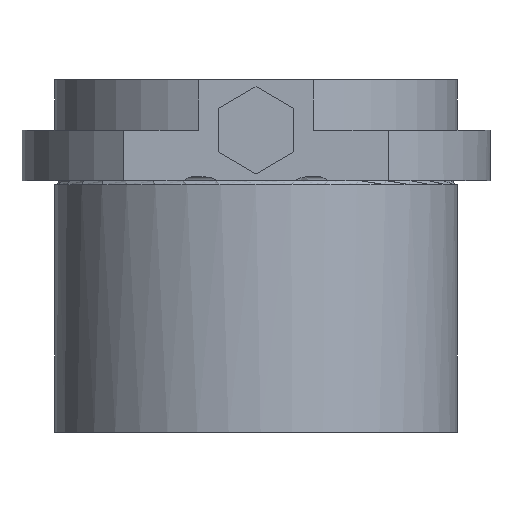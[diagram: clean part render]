
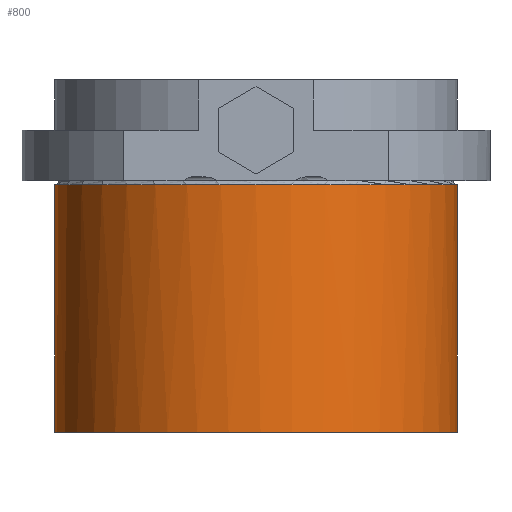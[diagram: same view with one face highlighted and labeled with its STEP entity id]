
A CAD part, front view. The second image highlights one B-rep face of the part: STEP entity #800.
In plain terms, the highlighted cylindrical face has radius 24 mm (diameter 48 mm), a partial arc.
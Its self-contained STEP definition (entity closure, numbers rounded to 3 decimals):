
#435=CARTESIAN_POINT('Control Point',(-24.,0.,-30.)) ;
#436=CARTESIAN_POINT('Control Point',(-24.,-2.4,-30.)) ;
#437=CARTESIAN_POINT('Control Point',(-23.7,-4.8,-30.)) ;
#438=CARTESIAN_POINT('Control Point',(-23.1,-7.15,-30.)) ;
#439=CARTESIAN_POINT('Control Point',(-21.325,-11.65,-30.)) ;
#440=CARTESIAN_POINT('Control Point',(-18.497,-15.575,-30.)) ;
#441=CARTESIAN_POINT('Control Point',(-16.844,-17.349,-30.)) ;
#442=CARTESIAN_POINT('Control Point',(-13.129,-20.448,-30.)) ;
#443=CARTESIAN_POINT('Control Point',(-8.766,-22.536,-30.)) ;
#444=CARTESIAN_POINT('Control Point',(-6.464,-23.301,-30.)) ;
#445=CARTESIAN_POINT('Control Point',(-1.719,-24.239,-30.)) ;
#446=CARTESIAN_POINT('Control Point',(3.111,-23.98,-30.)) ;
#447=CARTESIAN_POINT('Control Point',(5.498,-23.548,-30.)) ;
#448=CARTESIAN_POINT('Control Point',(10.112,-22.096,-30.)) ;
#449=CARTESIAN_POINT('Control Point',(14.227,-19.553,-30.)) ;
#450=CARTESIAN_POINT('Control Point',(16.114,-18.029,-30.)) ;
#451=CARTESIAN_POINT('Control Point',(19.468,-14.543,-30.)) ;
#452=CARTESIAN_POINT('Control Point',(21.86,-10.338,-30.)) ;
#453=CARTESIAN_POINT('Control Point',(22.785,-8.096,-30.)) ;
#454=CARTESIAN_POINT('Control Point',(23.601,-5.102,-30.)) ;
#455=CARTESIAN_POINT('Control Point',(23.928,-2.038,-30.)) ;
#456=CARTESIAN_POINT('Control Point',(23.976,-1.359,-30.)) ;
#457=CARTESIAN_POINT('Control Point',(24.,-0.679,-30.)) ;
#458=CARTESIAN_POINT('Control Point',(24.,0.,-30.)) ;
#459=CARTESIAN_POINT('Vertex',(-24.,0.,-30.)) ;
#461=CARTESIAN_POINT('Vertex',(24.,0.,-30.)) ;
#770=CARTESIAN_POINT('Axis2P3D Location',(0.,0.,12.)) ;
#775=CARTESIAN_POINT('Line Origine',(24.,0.,12.)) ;
#779=CARTESIAN_POINT('Vertex',(24.,0.,-0.5)) ;
#782=CARTESIAN_POINT('Axis2P3D Location',(0.,0.,-0.5)) ;
#786=CARTESIAN_POINT('Vertex',(-24.,0.,-0.5)) ;
#789=CARTESIAN_POINT('Line Origine',(-24.,0.,12.)) ;
#771=DIRECTION('Axis2P3D Direction',(0.,0.,-1.)) ;
#772=DIRECTION('Axis2P3D XDirection',(1.,0.,0.)) ;
#776=DIRECTION('Vector Direction',(0.,0.,-1.)) ;
#783=DIRECTION('Axis2P3D Direction',(0.,0.,-1.)) ;
#790=DIRECTION('Vector Direction',(0.,0.,-1.)) ;
#773=AXIS2_PLACEMENT_3D('Cylinder Axis2P3D',#770,#771,#772) ;
#784=AXIS2_PLACEMENT_3D('Circle Axis2P3D',#782,#783,$) ;
#795=ORIENTED_EDGE('',*,*,#781,.T.) ;
#796=ORIENTED_EDGE('',*,*,#788,.F.) ;
#797=ORIENTED_EDGE('',*,*,#793,.T.) ;
#798=ORIENTED_EDGE('',*,*,#463,.T.) ;
#777=VECTOR('Line Direction',#776,1.) ;
#791=VECTOR('Line Direction',#790,1.) ;
#800=ADVANCED_FACE('740-30',(#799),#774,.T.) ;
#434=B_SPLINE_CURVE_WITH_KNOTS('',5,(#435,#436,#437,#438,#439,#440,#441,#442,#443,#444,#445,#446,#447,#448,#449,#450,#451,#452,#453,#454,#455,#456,#457,#458),.UNSPECIFIED.,.F.,.U.,(6,3,3,3,3,3,3,6),(0.,16.97,33.941,50.911,67.881,84.852,101.822,106.626),.UNSPECIFIED.) ;
#785=CIRCLE('generated circle',#784,24.) ;
#774=CYLINDRICAL_SURFACE('generated cylinder',#773,24.) ;
#463=EDGE_CURVE('',#460,#462,#434,.T.) ;
#781=EDGE_CURVE('',#462,#780,#778,.F.) ;
#788=EDGE_CURVE('',#787,#780,#785,.F.) ;
#793=EDGE_CURVE('',#787,#460,#792,.T.) ;
#794=EDGE_LOOP('',(#795,#796,#797,#798)) ;
#799=FACE_OUTER_BOUND('',#794,.T.) ;
#778=LINE('Line',#775,#777) ;
#792=LINE('Line',#789,#791) ;
#460=VERTEX_POINT('',#459) ;
#462=VERTEX_POINT('',#461) ;
#780=VERTEX_POINT('',#779) ;
#787=VERTEX_POINT('',#786) ;
